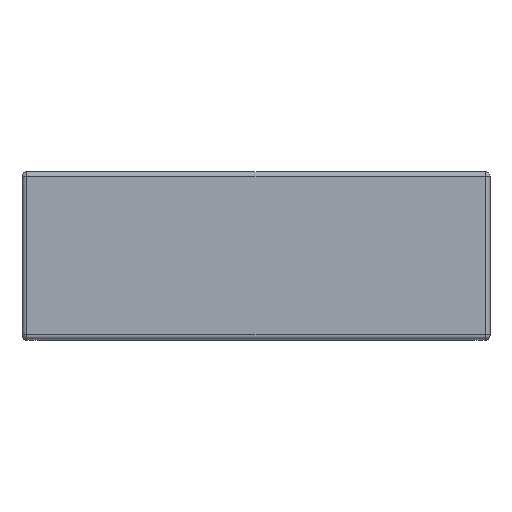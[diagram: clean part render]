
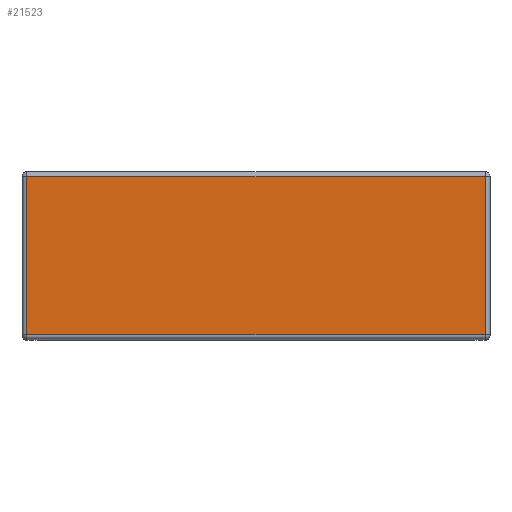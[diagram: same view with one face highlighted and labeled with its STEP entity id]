
A CAD part, top view. The second image highlights one B-rep face of the part: STEP entity #21523.
In plain terms, the highlighted planar face has unit normal (0, 0, 1).
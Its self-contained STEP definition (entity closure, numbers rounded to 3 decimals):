
#113 = FACE_OUTER_BOUND ( 'NONE', #14377, .T. ) ;
#300 = ORIENTED_EDGE ( 'NONE', *, *, #7360, .T. ) ;
#1056 = EDGE_CURVE ( 'NONE', #12377, #3253, #15545, .T. ) ;
#1994 = DIRECTION ( 'NONE',  ( -1., 0., 0. ) ) ;
#3042 = VECTOR ( 'NONE', #1994, 1000. ) ;
#3253 = VERTEX_POINT ( 'NONE', #20938 ) ;
#3872 = LINE ( 'NONE', #11567, #12585 ) ;
#3931 = CARTESIAN_POINT ( 'NONE',  ( -9.625, -3.325, 5.08 ) ) ;
#4107 = PLANE ( 'NONE',  #9598 ) ;
#4425 = VECTOR ( 'NONE', #15431, 1000. ) ;
#5352 = DIRECTION ( 'NONE',  ( 0., -1., 0. ) ) ;
#5711 = ORIENTED_EDGE ( 'NONE', *, *, #11657, .T. ) ;
#6054 = EDGE_CURVE ( 'NONE', #15084, #12377, #3872, .T. ) ;
#7360 = EDGE_CURVE ( 'NONE', #3253, #16114, #16329, .T. ) ;
#9598 = AXIS2_PLACEMENT_3D ( 'NONE', #11213, #11444, #18440 ) ;
#11213 = CARTESIAN_POINT ( 'NONE',  ( 0., 0., 5.08 ) ) ;
#11444 = DIRECTION ( 'NONE',  ( 0., 0., 1. ) ) ;
#11567 = CARTESIAN_POINT ( 'NONE',  ( 9.825, -3.325, 5.08 ) ) ;
#11657 = EDGE_CURVE ( 'NONE', #16114, #15084, #14389, .T. ) ;
#12377 = VERTEX_POINT ( 'NONE', #12898 ) ;
#12449 = CARTESIAN_POINT ( 'NONE',  ( -9.625, 3.325, 5.08 ) ) ;
#12585 = VECTOR ( 'NONE', #16864, 1000. ) ;
#12898 = CARTESIAN_POINT ( 'NONE',  ( 9.625, -3.325, 5.08 ) ) ;
#13622 = CARTESIAN_POINT ( 'NONE',  ( 9.625, 3.525, 5.08 ) ) ;
#14377 = EDGE_LOOP ( 'NONE', ( #300, #5711, #18712, #15448 ) ) ;
#14389 = LINE ( 'NONE', #16090, #19284 ) ;
#15084 = VERTEX_POINT ( 'NONE', #3931 ) ;
#15431 = DIRECTION ( 'NONE',  ( 0., 1., 0. ) ) ;
#15448 = ORIENTED_EDGE ( 'NONE', *, *, #1056, .T. ) ;
#15545 = LINE ( 'NONE', #13622, #4425 ) ;
#16090 = CARTESIAN_POINT ( 'NONE',  ( -9.625, -3.525, 5.08 ) ) ;
#16114 = VERTEX_POINT ( 'NONE', #12449 ) ;
#16329 = LINE ( 'NONE', #18506, #3042 ) ;
#16864 = DIRECTION ( 'NONE',  ( 1., 0., 0. ) ) ;
#18440 = DIRECTION ( 'NONE',  ( 1., 0., 0. ) ) ;
#18506 = CARTESIAN_POINT ( 'NONE',  ( -9.825, 3.325, 5.08 ) ) ;
#18712 = ORIENTED_EDGE ( 'NONE', *, *, #6054, .T. ) ;
#19284 = VECTOR ( 'NONE', #5352, 1000. ) ;
#20938 = CARTESIAN_POINT ( 'NONE',  ( 9.625, 3.325, 5.08 ) ) ;
#21523 = ADVANCED_FACE ( 'NONE', ( #113 ), #4107, .T. ) ;
